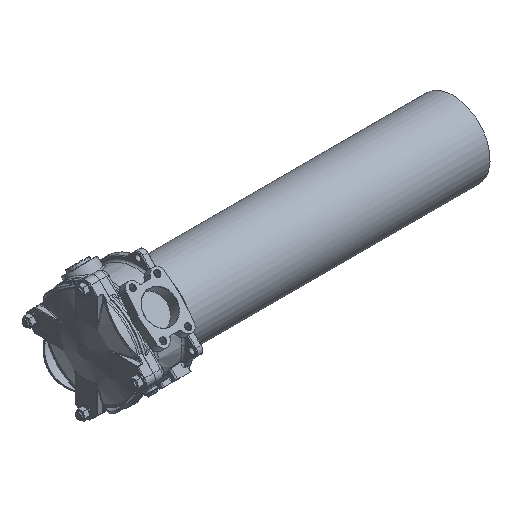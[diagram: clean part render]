
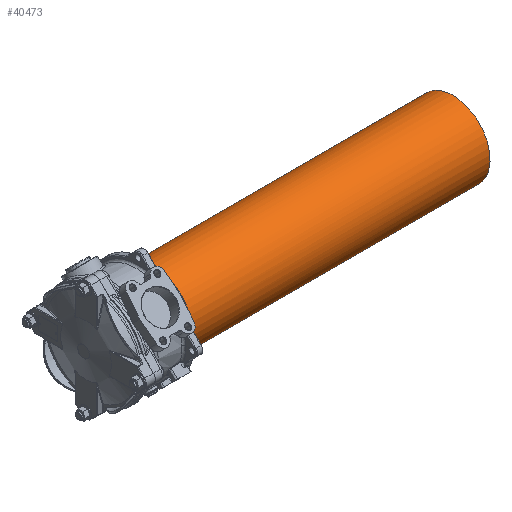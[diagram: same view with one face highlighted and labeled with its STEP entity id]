
A CAD part, isometric view. The second image highlights one B-rep face of the part: STEP entity #40473.
In plain terms, the highlighted free-form (B-spline) face has degree [2, 1] with [7, 2] control points.
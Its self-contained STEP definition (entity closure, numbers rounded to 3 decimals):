
#40398=CARTESIAN_POINT('V1194',(687.436,
   159.81,0.));
#40399=VERTEX_POINT('V1194',#40398);
#40400=CARTESIAN_POINT('E1943',(687.436,
   159.81,0.));
#40401=CARTESIAN_POINT('E1943',(687.436,
   159.81,131.636));
#40402=CARTESIAN_POINT('E1943',(687.436,
   45.81,65.818));
#40403=CARTESIAN_POINT('E1943',(687.436,
   -68.19,0.));
#40404=CARTESIAN_POINT('E1943',(687.436,
   45.81,-65.818));
#40405=CARTESIAN_POINT('E1943',(687.436,
   159.81,-131.636));
#40406=CARTESIAN_POINT('E1943',(687.436,
   159.81,0.));
#40414=(BOUNDED_CURVE()B_SPLINE_CURVE(2,(#40400,#40401,#40402,
   #40403,#40404,#40405,#40406),.CIRCULAR_ARC.,.T.,.U.)
   B_SPLINE_CURVE_WITH_KNOTS((3,2,2,3),(0.0,0.431,
   0.862,1.293),.UNSPECIFIED.)CURVE()
   GEOMETRIC_REPRESENTATION_ITEM()RATIONAL_B_SPLINE_CURVE((1.0,
   0.5,1.0,0.5,1.0,0.5,1.0)
   )REPRESENTATION_ITEM('E1943'));
#40415=EDGE_CURVE('E1943',#40399,#40399,#40414,.T.);
#40423=CARTESIAN_POINT('F793',(687.436,
   159.81,0.));
#40424=CARTESIAN_POINT('F793',(687.436,
   159.81,-131.636));
#40425=CARTESIAN_POINT('F793',(687.436,
   45.81,-65.818));
#40426=CARTESIAN_POINT('F793',(687.436,
   -68.19,0.));
#40427=CARTESIAN_POINT('F793',(687.436,
   45.81,65.818));
#40428=CARTESIAN_POINT('F793',(687.436,
   159.81,131.636));
#40429=CARTESIAN_POINT('F793',(687.436,
   159.81,0.));
#40430=CARTESIAN_POINT('F793',(76.832,
   159.81,0.));
#40431=CARTESIAN_POINT('F793',(76.832,
   159.81,-131.636));
#40432=CARTESIAN_POINT('F793',(76.832,45.81,
   -65.818));
#40433=CARTESIAN_POINT('F793',(76.832,
   -68.19,0.));
#40434=CARTESIAN_POINT('F793',(76.832,45.81,
   65.818));
#40435=CARTESIAN_POINT('F793',(76.832,
   159.81,131.636));
#40436=CARTESIAN_POINT('F793',(76.832,
   159.81,0.));
#40444=(BOUNDED_SURFACE()B_SPLINE_SURFACE(2,1,((#40423,#40430),(
   #40424,#40431),(#40425,#40432),(#40426,#40433),(#40427,
   #40434),(#40428,#40435),(#40429,#40436)),.CYLINDRICAL_SURF.,
   .T.,.F.,.U.)B_SPLINE_SURFACE_WITH_KNOTS((3,2,2,3),(2,2),(0.0,
   0.431,0.862,1.293),(0.0,1.0),
   .UNSPECIFIED.)GEOMETRIC_REPRESENTATION_ITEM()
   RATIONAL_B_SPLINE_SURFACE(((1.0,1.0),(0.5,
   0.5),(1.0,1.0),(0.5,
   0.5),(1.0,1.0),(0.5,
   0.5),(1.0,1.0)))REPRESENTATION_ITEM('F793')
   SURFACE());
#40445=CARTESIAN_POINT('V1193',(76.832,
   159.81,0.));
#40446=VERTEX_POINT('V1193',#40445);
#40447=CARTESIAN_POINT('E1942',(76.832,
   159.81,0.0));
#40448=CARTESIAN_POINT('E1942',(687.436,
   159.81,0.0));
#40449=QUASI_UNIFORM_CURVE('E1942',1,(#40447,#40448),.POLYLINE_FORM.,
   .F.,.U.);
#40450=EDGE_CURVE('E1942',#40446,#40399,#40449,.T.);
#40451=ORIENTED_EDGE('E1942',*,*,#40450,.T.);
#40452=ORIENTED_EDGE('F804',*,*,#40415,.F.);
#40453=ORIENTED_EDGE('E1942',*,*,#40450,.F.);
#40454=CARTESIAN_POINT('E1944',(76.832,
   159.81,0.));
#40455=CARTESIAN_POINT('E1944',(76.832,
   159.81,-131.636));
#40456=CARTESIAN_POINT('E1944',(76.832,
   45.81,-65.818));
#40457=CARTESIAN_POINT('E1944',(76.832,
   -68.19,0.));
#40458=CARTESIAN_POINT('E1944',(76.832,
   45.81,65.818));
#40459=CARTESIAN_POINT('E1944',(76.832,
   159.81,131.636));
#40460=CARTESIAN_POINT('E1944',(76.832,
   159.81,0.));
#40468=(BOUNDED_CURVE()B_SPLINE_CURVE(2,(#40454,#40455,#40456,
   #40457,#40458,#40459,#40460),.CIRCULAR_ARC.,.T.,.U.)
   B_SPLINE_CURVE_WITH_KNOTS((3,2,2,3),(0.0,45.875,
   91.75,137.624),.UNSPECIFIED.)CURVE()
   GEOMETRIC_REPRESENTATION_ITEM()RATIONAL_B_SPLINE_CURVE((1.0,
   0.5,1.0,0.5,1.0,0.5,1.0)
   )REPRESENTATION_ITEM('E1944'));
#40469=EDGE_CURVE('E1944',#40446,#40446,#40468,.T.);
#40470=ORIENTED_EDGE('E1944',*,*,#40469,.F.);
#40471=EDGE_LOOP('F793',(#40451,#40452,#40453,#40470));
#40472=FACE_OUTER_BOUND('F793',#40471,.T.);
#40473=ADVANCED_FACE('F793',(#40472),#40444,.T.);
